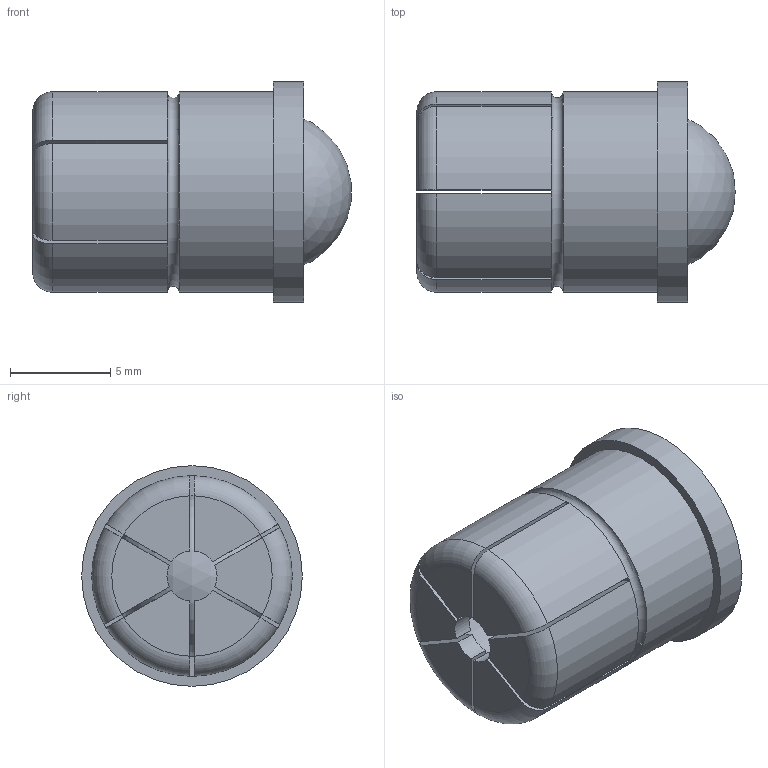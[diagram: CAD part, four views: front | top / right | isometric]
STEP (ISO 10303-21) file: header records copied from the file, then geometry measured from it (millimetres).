
FILE_DESCRIPTION( ( 'STEP AP203' ), '1' );
FILE_NAME( 'C:/Temp/Ganter_Step_05_03_2020/data/3_1/gn_614_5/Spring plunger GN 614.5-10-KD (deactivated).stp', '2020-03-12T09:12:50', ( 'License CC BY-ND 4.0' ), ( 'CADENAS' ), ' ', 'PARTsolutions', ' ' );
FILE_SCHEMA( ( 'CONFIG_CONTROL_DESIGN' ) );
Length unit declared in the file: millimetre
Products named in the file (1): _Spring plunger GN 614.5-10-KD (deactivated)
Bounding box: 15.87 x 11 x 11 mm (x, y, z)
Volume: 702.3 mm3; surface area: 1183.6 mm2
Topology: 1 solids, 1 shells, 63 faces, 165 edges, 106 vertices
Faces by surface type: plane 32, cylinder 16, torus 13, sphere 2
Full cylindrical faces by diameter (mm): 7.98 x2, 10 x1, 11 x1
Entity records: 2042 total; most frequent: CARTESIAN_POINT 478, DIRECTION 322, ORIENTED_EDGE 314, EDGE_CURVE 157, AXIS2_PLACEMENT_3D 125, VERTEX_POINT 103, LINE 72, VECTOR 72
